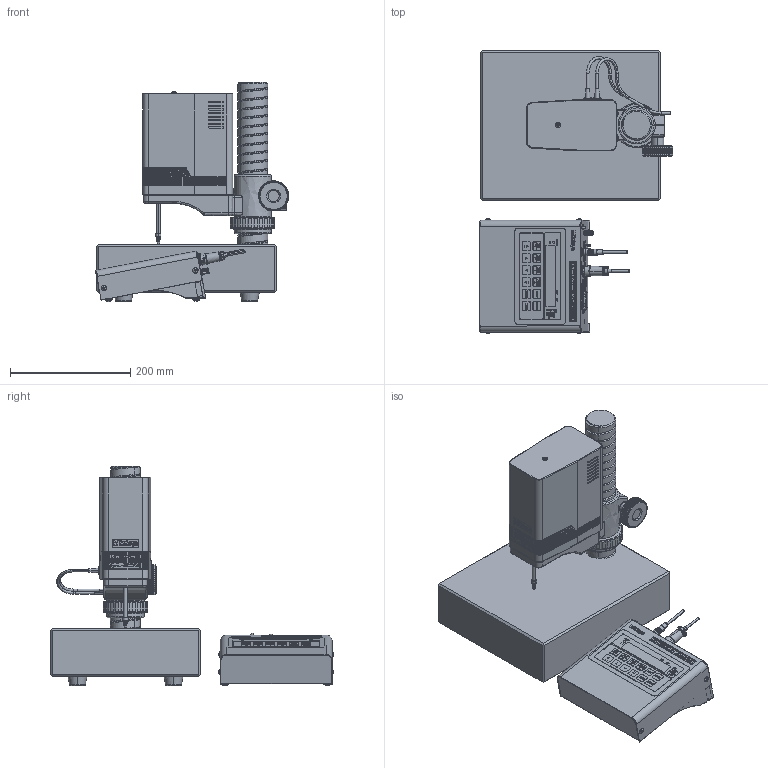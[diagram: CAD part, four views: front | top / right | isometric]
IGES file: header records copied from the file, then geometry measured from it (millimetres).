
Start section: Elysium IGES Interface
Global section: file name: 66HX:\users\kw_rdg\niwanoa\sagyou\01_製品データ\07_VL\VL-50S-B_01.igs; native system: Creo Elements/Direct Modeling 18.1C  24-Feb-2013; preprocessor: Creo Element/Direct IGES_3D V2.2; author: Unknown; organization: Unknown; date: 20170818.170138; units: millimetre
Bounding box: 321.99 x 471.65 x 365 mm (x, y, z)
Volume: 10604388.5 mm3; surface area: 615085.5 mm2
Topology: 3 solids, 9 shells, 3829 faces, 12916 edges, 9531 vertices
Faces by surface type: bspline 3829
